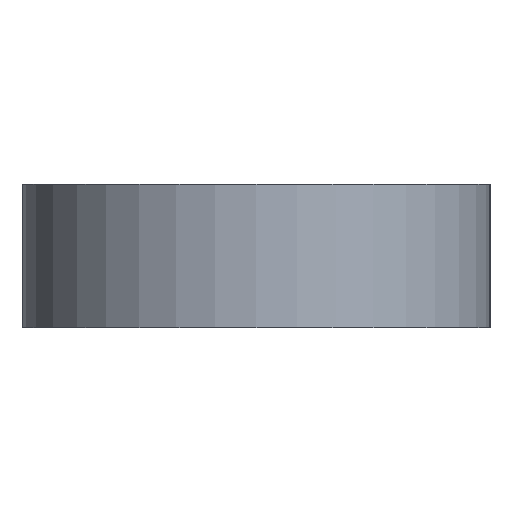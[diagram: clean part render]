
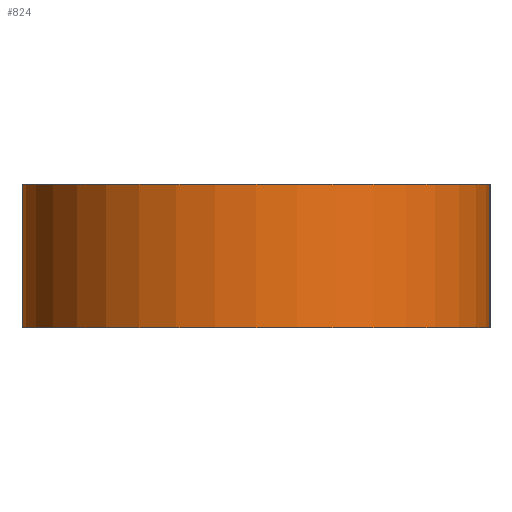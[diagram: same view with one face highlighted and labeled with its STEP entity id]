
A CAD part, left-side view. The second image highlights one B-rep face of the part: STEP entity #824.
In plain terms, the highlighted cylindrical face has radius 3.6 mm (diameter 7.2 mm), a partial arc.
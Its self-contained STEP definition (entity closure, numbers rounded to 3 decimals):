
#101 = PLANE('',#102);
#102 = AXIS2_PLACEMENT_3D('',#103,#104,#105);
#103 = CARTESIAN_POINT('',(-9.1,62.4,-7.15));
#104 = DIRECTION('',(-0.,1.,0.));
#105 = DIRECTION('',(0.,0.,1.));
#206 = PLANE('',#207);
#207 = AXIS2_PLACEMENT_3D('',#208,#209,#210);
#208 = CARTESIAN_POINT('',(-9.1,69.6,-7.15));
#209 = DIRECTION('',(-0.,1.,0.));
#210 = DIRECTION('',(0.,0.,1.));
#329 = VERTEX_POINT('',#330);
#330 = CARTESIAN_POINT('',(-9.1,62.4,-7.15));
#356 = EDGE_CURVE('',#329,#357,#359,.T.);
#357 = VERTEX_POINT('',#358);
#358 = CARTESIAN_POINT('',(-9.1,62.4,-4.95));
#359 = SURFACE_CURVE('',#360,(#364,#371),.PCURVE_S1.);
#360 = LINE('',#361,#362);
#361 = CARTESIAN_POINT('',(-9.1,62.4,-7.15));
#362 = VECTOR('',#363,1.);
#363 = DIRECTION('',(0.,0.,1.));
#364 = PCURVE('',#101,#365);
#365 = DEFINITIONAL_REPRESENTATION('',(#366),#370);
#366 = LINE('',#367,#368);
#367 = CARTESIAN_POINT('',(0.,0.));
#368 = VECTOR('',#369,1.);
#369 = DIRECTION('',(1.,0.));
#370 = ( GEOMETRIC_REPRESENTATION_CONTEXT(2) 
PARAMETRIC_REPRESENTATION_CONTEXT() REPRESENTATION_CONTEXT('2D SPACE',''
  ) );
#371 = PCURVE('',#372,#377);
#372 = CYLINDRICAL_SURFACE('',#373,3.6);
#373 = AXIS2_PLACEMENT_3D('',#374,#375,#376);
#374 = CARTESIAN_POINT('',(-9.1,66.,-7.15));
#375 = DIRECTION('',(0.,0.,1.));
#376 = DIRECTION('',(1.,0.,-0.));
#377 = DEFINITIONAL_REPRESENTATION('',(#378),#382);
#378 = LINE('',#379,#380);
#379 = CARTESIAN_POINT('',(4.712,0.));
#380 = VECTOR('',#381,1.);
#381 = DIRECTION('',(0.,1.));
#382 = ( GEOMETRIC_REPRESENTATION_CONTEXT(2) 
PARAMETRIC_REPRESENTATION_CONTEXT() REPRESENTATION_CONTEXT('2D SPACE',''
  ) );
#522 = VERTEX_POINT('',#523);
#523 = CARTESIAN_POINT('',(-9.1,69.6,-7.15));
#544 = EDGE_CURVE('',#522,#545,#547,.T.);
#545 = VERTEX_POINT('',#546);
#546 = CARTESIAN_POINT('',(-9.1,69.6,-4.95));
#547 = SURFACE_CURVE('',#548,(#552,#559),.PCURVE_S1.);
#548 = LINE('',#549,#550);
#549 = CARTESIAN_POINT('',(-9.1,69.6,-7.15));
#550 = VECTOR('',#551,1.);
#551 = DIRECTION('',(0.,0.,1.));
#552 = PCURVE('',#206,#553);
#553 = DEFINITIONAL_REPRESENTATION('',(#554),#558);
#554 = LINE('',#555,#556);
#555 = CARTESIAN_POINT('',(0.,0.));
#556 = VECTOR('',#557,1.);
#557 = DIRECTION('',(1.,0.));
#558 = ( GEOMETRIC_REPRESENTATION_CONTEXT(2) 
PARAMETRIC_REPRESENTATION_CONTEXT() REPRESENTATION_CONTEXT('2D SPACE',''
  ) );
#559 = PCURVE('',#372,#560);
#560 = DEFINITIONAL_REPRESENTATION('',(#561),#565);
#561 = LINE('',#562,#563);
#562 = CARTESIAN_POINT('',(1.571,0.));
#563 = VECTOR('',#564,1.);
#564 = DIRECTION('',(0.,1.));
#565 = ( GEOMETRIC_REPRESENTATION_CONTEXT(2) 
PARAMETRIC_REPRESENTATION_CONTEXT() REPRESENTATION_CONTEXT('2D SPACE',''
  ) );
#824 = ADVANCED_FACE('',(#825),#372,.T.);
#825 = FACE_BOUND('',#826,.T.);
#826 = EDGE_LOOP('',(#827,#854,#855,#882));
#827 = ORIENTED_EDGE('',*,*,#828,.F.);
#828 = EDGE_CURVE('',#545,#357,#829,.T.);
#829 = SURFACE_CURVE('',#830,(#835,#842),.PCURVE_S1.);
#830 = CIRCLE('',#831,3.6);
#831 = AXIS2_PLACEMENT_3D('',#832,#833,#834);
#832 = CARTESIAN_POINT('',(-9.1,66.,-4.95));
#833 = DIRECTION('',(0.,0.,1.));
#834 = DIRECTION('',(1.,0.,-0.));
#835 = PCURVE('',#372,#836);
#836 = DEFINITIONAL_REPRESENTATION('',(#837),#841);
#837 = LINE('',#838,#839);
#838 = CARTESIAN_POINT('',(0.,2.2));
#839 = VECTOR('',#840,1.);
#840 = DIRECTION('',(1.,0.));
#841 = ( GEOMETRIC_REPRESENTATION_CONTEXT(2) 
PARAMETRIC_REPRESENTATION_CONTEXT() REPRESENTATION_CONTEXT('2D SPACE',''
  ) );
#842 = PCURVE('',#843,#848);
#843 = PLANE('',#844);
#844 = AXIS2_PLACEMENT_3D('',#845,#846,#847);
#845 = CARTESIAN_POINT('',(-9.1,66.,-4.95));
#846 = DIRECTION('',(0.,0.,1.));
#847 = DIRECTION('',(1.,0.,-0.));
#848 = DEFINITIONAL_REPRESENTATION('',(#849),#853);
#849 = CIRCLE('',#850,3.6);
#850 = AXIS2_PLACEMENT_2D('',#851,#852);
#851 = CARTESIAN_POINT('',(0.,0.));
#852 = DIRECTION('',(1.,0.));
#853 = ( GEOMETRIC_REPRESENTATION_CONTEXT(2) 
PARAMETRIC_REPRESENTATION_CONTEXT() REPRESENTATION_CONTEXT('2D SPACE',''
  ) );
#854 = ORIENTED_EDGE('',*,*,#544,.F.);
#855 = ORIENTED_EDGE('',*,*,#856,.T.);
#856 = EDGE_CURVE('',#522,#329,#857,.T.);
#857 = SURFACE_CURVE('',#858,(#863,#870),.PCURVE_S1.);
#858 = CIRCLE('',#859,3.6);
#859 = AXIS2_PLACEMENT_3D('',#860,#861,#862);
#860 = CARTESIAN_POINT('',(-9.1,66.,-7.15));
#861 = DIRECTION('',(0.,0.,1.));
#862 = DIRECTION('',(1.,0.,-0.));
#863 = PCURVE('',#372,#864);
#864 = DEFINITIONAL_REPRESENTATION('',(#865),#869);
#865 = LINE('',#866,#867);
#866 = CARTESIAN_POINT('',(0.,0.));
#867 = VECTOR('',#868,1.);
#868 = DIRECTION('',(1.,0.));
#869 = ( GEOMETRIC_REPRESENTATION_CONTEXT(2) 
PARAMETRIC_REPRESENTATION_CONTEXT() REPRESENTATION_CONTEXT('2D SPACE',''
  ) );
#870 = PCURVE('',#871,#876);
#871 = PLANE('',#872);
#872 = AXIS2_PLACEMENT_3D('',#873,#874,#875);
#873 = CARTESIAN_POINT('',(-9.1,66.,-7.15));
#874 = DIRECTION('',(0.,0.,1.));
#875 = DIRECTION('',(1.,0.,-0.));
#876 = DEFINITIONAL_REPRESENTATION('',(#877),#881);
#877 = CIRCLE('',#878,3.6);
#878 = AXIS2_PLACEMENT_2D('',#879,#880);
#879 = CARTESIAN_POINT('',(0.,0.));
#880 = DIRECTION('',(1.,0.));
#881 = ( GEOMETRIC_REPRESENTATION_CONTEXT(2) 
PARAMETRIC_REPRESENTATION_CONTEXT() REPRESENTATION_CONTEXT('2D SPACE',''
  ) );
#882 = ORIENTED_EDGE('',*,*,#356,.T.);
